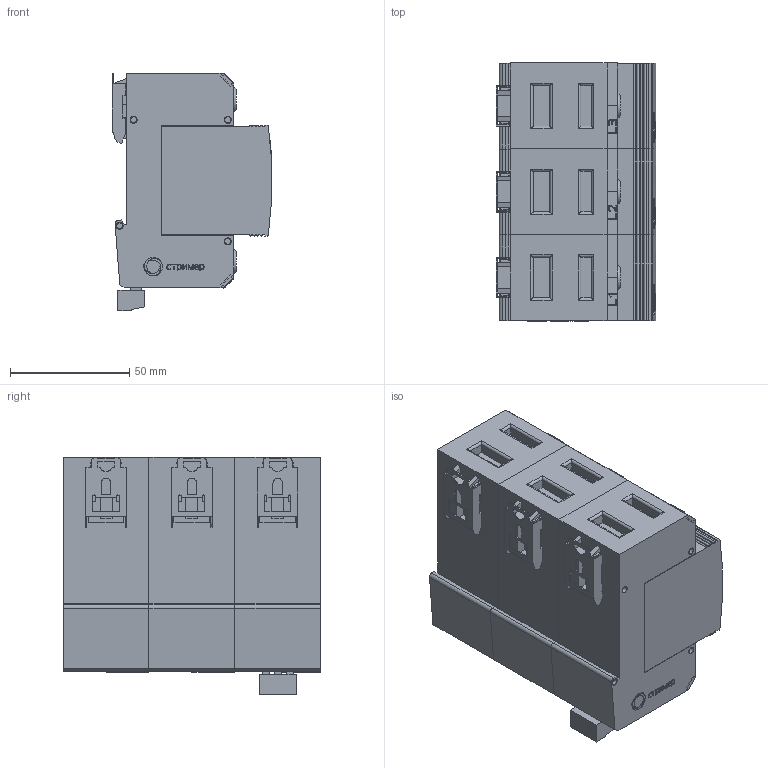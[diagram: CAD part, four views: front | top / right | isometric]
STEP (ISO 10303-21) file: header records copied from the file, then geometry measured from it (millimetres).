
FILE_DESCRIPTION(('TFLEX Exchange Step'),'2;1');
FILE_NAME('X2\041004400442\X0\.113_101.stp', '2022-08-30T13:52:49+03:00',('Ivan Berdigulov'),('Unknown organisation'),'TFLEX Exchange 2019.2','T-FLEX CAD','Unknown authorisation');
FILE_SCHEMA( ('AUTOMOTIVE_DESIGN { 1 0 10303 214 1 1 1 1 }') );
Length unit declared in the file: millimetre
Products named in the file (2): 0
Assembly tree (1 placements, depth 2):
  0
    0
Bounding box: 66.98 x 108.1 x 99.61 mm (x, y, z)
Volume: 519834.3 mm3; surface area: 106354.7 mm2
Topology: 100 solids, 100 shells, 1671 faces, 4215 edges, 2783 vertices
Faces by surface type: plane 1032, cylinder 340, bspline 287, torus 9, cone 3
Full cylindrical faces by diameter (mm): 1.6 x3, 2.5 x36, 3 x39, 4 x3
Entity records: 74994 total; most frequent: CARTESIAN_POINT 36668, ORIENTED_EDGE 8268, DIRECTION 6770, EDGE_CURVE 4134, VERTEX_POINT 2783, VECTOR 2616, LINE 2616, AXIS2_PLACEMENT_3D 2077
